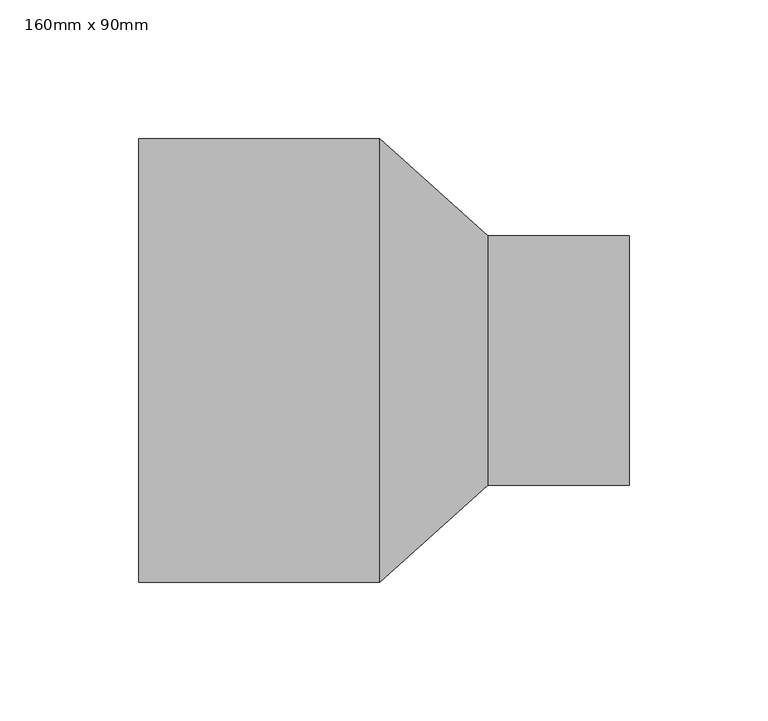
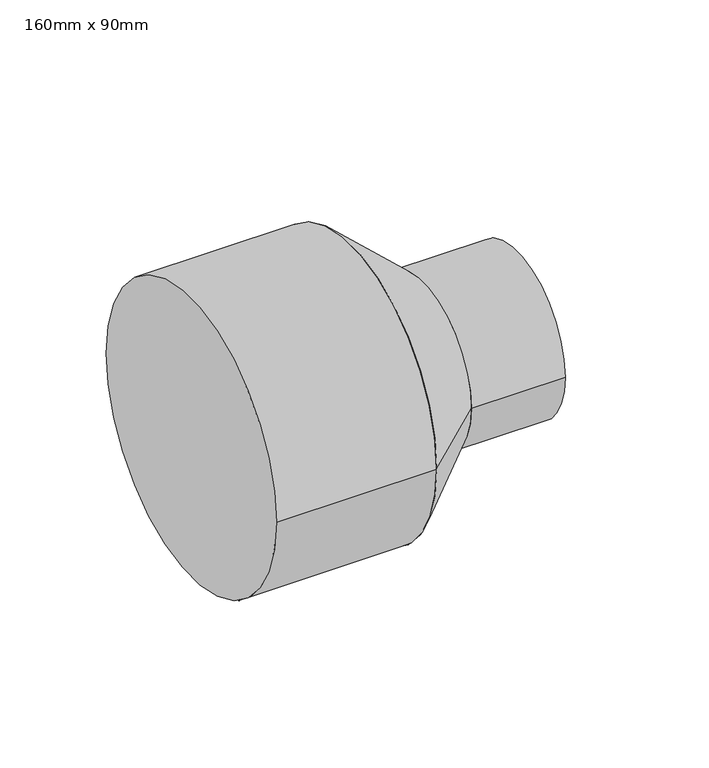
"""IFC4 building model written with IfcOpenShell, lengths in millimetres: pipe fitting geometry, PipeFitting_HTA_CPVC_ReducingBushesLongPattern : 160mm x 90mm."""

from ifc_helpers import new_model, si_unit, point, frame, origin, origin_2d, place, context, project, spatial, polyline, circle_curve, trimmed, segment, composite_curve, outline, extrude, source, transform, mapped, element, save
from ifc_brep_helpers import plane_surface, revolved_surface, advanced_brep


def pipe_fitting_160mm_x_90mm_d26c7389(model_context):
    return source(origin(), model_context, "Body", "SolidModel", [
        advanced_brep(
        [(126.0, -45.0, 0.0), (126.0, 45.0, 0.0), (87.0, -80.0, 0.0), (87.0, 80.0, 0.0)],
        [
            (0, 1, circle_curve(frame((126.0, 0.0, 0.0), z_axis=(1.0, 0.0, 0.0), x_axis=(0.0, -1.0, 0.0)), 45.0)),
            (1, 0, circle_curve(frame((126.0, 0.0, 0.0), z_axis=(1.0, 0.0, 0.0), x_axis=(0.0, 1.0, 0.0)), 45.0)),
            (2, 3, circle_curve(frame((87.0, 0.0, 0.0), z_axis=(-1.0, 0.0, 0.0), x_axis=(0.0, 1.0, 0.0)), 80.0)),
            (3, 2, circle_curve(frame((87.0, 0.0, 0.0), z_axis=(-1.0, 0.0, 0.0), x_axis=(0.0, -1.0, 0.0)), 80.0)),
            (3, 1),
            (0, 2),
        ],
        [
            plane_surface(frame((126.0, 0.0, 0.0), z_axis=(1.0, 0.0, 0.0), x_axis=(0.0, 0.0, -1.0))),
            plane_surface(frame((87.0, 0.0, 0.0), z_axis=(-1.0, 0.0, 0.0), x_axis=(0.0, 0.0, -1.0))),
            revolved_surface(polyline([(126.0, -44.99999998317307, 0.0), (87.0, -80.0, 0.0)]), (176.1428571, 0.0, 0.0), (-1.0, 0.0, 0.0)),
            revolved_surface(polyline([(126.0, 44.99999998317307, 0.0), (87.0, 80.0, 0.0)]), (176.1428571, 0.0, 0.0), (-1.0, 0.0, 0.0)),
        ],
        [
            (0, [[1, 2]]),
            (1, [[3, 4]]),
            (2, [[-4, 5, -1, 6]]),
            (3, [[-3, -6, -2, -5]]),
        ],
    ),
        extrude(outline(composite_curve([segment(trimmed(circle_curve(origin_2d(), 45.0), [point((-45.0, 0.0))], [point((45.0, 0.0))], False, "CARTESIAN"), True, "CONTINUOUS"), segment(trimmed(circle_curve(origin_2d(), 45.0), [point((45.0, 0.0))], [point((-45.0, 0.0))], False, "CARTESIAN"), True, "CONTINUOUS")], self_intersect=False)), frame((126.0, 0.0, 0.0), z_axis=(1.0, 0.0, 0.0), x_axis=(0.0, 1.0, 0.0)), (0.0, 0.0, 1.0), 51.0),
        extrude(outline(composite_curve([segment(trimmed(circle_curve(origin_2d(), 80.0), [point((-80.0, 0.0))], [point((80.0, 0.0))], False, "CARTESIAN"), True, "CONTINUOUS"), segment(trimmed(circle_curve(origin_2d(), 80.0), [point((80.0, 0.0))], [point((-80.0, 0.0))], False, "CARTESIAN"), True, "CONTINUOUS")], self_intersect=False)), frame((0.0, 0.0, 0.0), z_axis=(1.0, 0.0, 0.0), x_axis=(0.0, 1.0, 0.0)), (0.0, 0.0, 1.0), 87.0),
    ])


if __name__ == "__main__":
    model = new_model("IFC4")
    model_context = context("Model", 3, world=origin())
    ifc_project = project(units=[si_unit("LENGTHUNIT", "METRE", prefix="MILLI")], contexts=[model_context])
    site = spatial("IfcSite", under=ifc_project)
    building = spatial("IfcBuilding", under=site)
    placement = place(None, origin())
    pipe_fitting_160mm_x_90mm_shape = pipe_fitting_160mm_x_90mm_d26c7389(model_context)
    element("IfcPipeFitting", 1, ObjectType="PipeFitting_HTA_CPVC_ReducingBushesLongPattern : 160mm x 90mm", at=placement, inside=building, context=model_context, shape_type="MappedRepresentation", body=[
        mapped(pipe_fitting_160mm_x_90mm_shape, transform((0.0, 0.0, 0.0), x_axis=(1.0, 0.0, 0.0), y_axis=(0.0, 1.0, 0.0), z_axis=(0.0, 0.0, 1.0))),
    ])
    save(model, "model.ifc")
